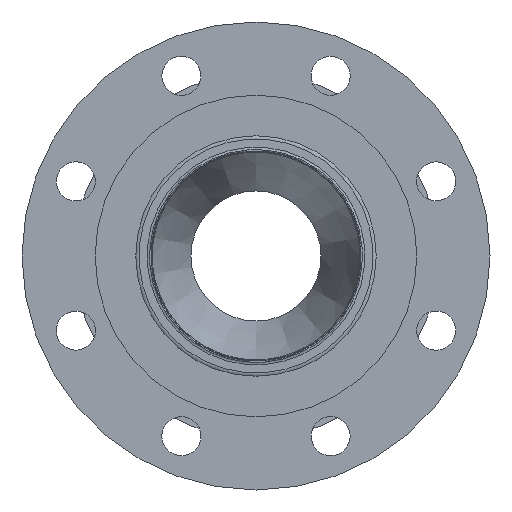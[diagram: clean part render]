
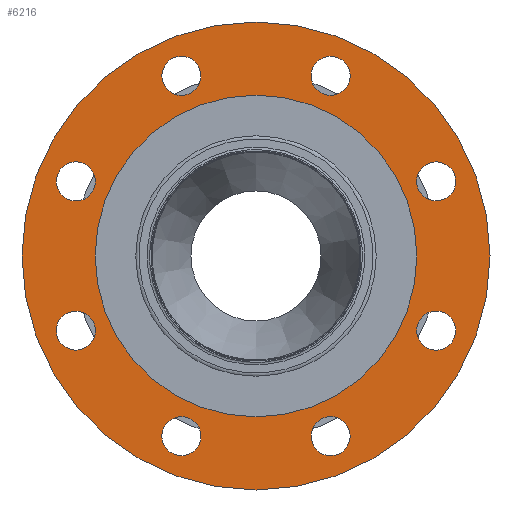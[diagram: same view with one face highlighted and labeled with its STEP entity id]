
A CAD part, front view. The second image highlights one B-rep face of the part: STEP entity #6216.
In plain terms, the highlighted planar face has unit normal (0, -1, 0) as drawn and (0, 1, 0) by its records, which use the part's own axes.
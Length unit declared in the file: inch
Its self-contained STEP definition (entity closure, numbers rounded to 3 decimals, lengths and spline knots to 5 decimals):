
#5877=CARTESIAN_POINT('',(-1.1699,0.5625,3.72971));
#5878=VERTEX_POINT('',#5877);
#5879=CARTESIAN_POINT('',(-1.43506,0.5625,3.46455));
#5880=DIRECTION('',(0.0,-1.0,0.0));
#5881=DIRECTION('',(0.707,0.0,0.707));
#5882=AXIS2_PLACEMENT_3D('',#5879,#5880,#5881);
#5883=CIRCLE('',#5882,0.375);
#5884=EDGE_CURVE('',#5878,#5878,#5883,.T.);
#5905=CARTESIAN_POINT('',(-3.46455,0.5625,1.81006));
#5906=VERTEX_POINT('',#5905);
#5907=CARTESIAN_POINT('',(-3.46455,0.5625,1.43506));
#5908=DIRECTION('',(0.0,-1.0,0.0));
#5909=DIRECTION('',(0.0,0.0,1.0));
#5910=AXIS2_PLACEMENT_3D('',#5907,#5908,#5909);
#5911=CIRCLE('',#5910,0.375);
#5912=EDGE_CURVE('',#5906,#5906,#5911,.T.);
#5933=CARTESIAN_POINT('',(-3.72971,0.5625,-1.1699));
#5934=VERTEX_POINT('',#5933);
#5935=CARTESIAN_POINT('',(-3.46455,0.5625,-1.43506));
#5936=DIRECTION('',(0.0,-1.0,0.0));
#5937=DIRECTION('',(-0.707,0.0,0.707));
#5938=AXIS2_PLACEMENT_3D('',#5935,#5936,#5937);
#5939=CIRCLE('',#5938,0.375);
#5940=EDGE_CURVE('',#5934,#5934,#5939,.T.);
#5961=CARTESIAN_POINT('',(-1.81006,0.5625,-3.46455));
#5962=VERTEX_POINT('',#5961);
#5963=CARTESIAN_POINT('',(-1.43506,0.5625,-3.46455));
#5964=DIRECTION('',(0.0,-1.0,0.0));
#5965=DIRECTION('',(-1.0,0.0,0.0));
#5966=AXIS2_PLACEMENT_3D('',#5963,#5964,#5965);
#5967=CIRCLE('',#5966,0.375);
#5968=EDGE_CURVE('',#5962,#5962,#5967,.T.);
#5989=CARTESIAN_POINT('',(1.1699,0.5625,-3.72971));
#5990=VERTEX_POINT('',#5989);
#5991=CARTESIAN_POINT('',(1.43506,0.5625,-3.46455));
#5992=DIRECTION('',(0.0,-1.0,0.0));
#5993=DIRECTION('',(-0.707,0.0,-0.707));
#5994=AXIS2_PLACEMENT_3D('',#5991,#5992,#5993);
#5995=CIRCLE('',#5994,0.375);
#5996=EDGE_CURVE('',#5990,#5990,#5995,.T.);
#6017=CARTESIAN_POINT('',(3.46455,0.5625,-1.81006));
#6018=VERTEX_POINT('',#6017);
#6019=CARTESIAN_POINT('',(3.46455,0.5625,-1.43506));
#6020=DIRECTION('',(0.0,-1.0,0.0));
#6021=DIRECTION('',(0.0,0.0,-1.0));
#6022=AXIS2_PLACEMENT_3D('',#6019,#6020,#6021);
#6023=CIRCLE('',#6022,0.375);
#6024=EDGE_CURVE('',#6018,#6018,#6023,.T.);
#6045=CARTESIAN_POINT('',(3.72971,0.5625,1.1699));
#6046=VERTEX_POINT('',#6045);
#6047=CARTESIAN_POINT('',(3.46455,0.5625,1.43506));
#6048=DIRECTION('',(0.0,-1.0,0.0));
#6049=DIRECTION('',(0.707,0.0,-0.707));
#6050=AXIS2_PLACEMENT_3D('',#6047,#6048,#6049);
#6051=CIRCLE('',#6050,0.375);
#6052=EDGE_CURVE('',#6046,#6046,#6051,.T.);
#6073=CARTESIAN_POINT('',(1.81006,0.5625,3.46455));
#6074=VERTEX_POINT('',#6073);
#6075=CARTESIAN_POINT('',(1.43506,0.5625,3.46455));
#6076=DIRECTION('',(0.0,-1.0,0.0));
#6077=DIRECTION('',(1.0,0.0,0.0));
#6078=AXIS2_PLACEMENT_3D('',#6075,#6076,#6077);
#6079=CIRCLE('',#6078,0.375);
#6080=EDGE_CURVE('',#6074,#6074,#6079,.T.);
#6101=CARTESIAN_POINT('',(3.09375,0.5625,0.));
#6102=VERTEX_POINT('',#6101);
#6103=CARTESIAN_POINT('',(0.0,0.5625,0.0));
#6104=DIRECTION('',(0.0,-1.0,0.0));
#6105=DIRECTION('',(-1.0,0.0,0.0));
#6106=AXIS2_PLACEMENT_3D('',#6103,#6104,#6105);
#6107=CIRCLE('',#6106,3.09375);
#6108=EDGE_CURVE('',#6102,#6102,#6107,.T.);
#6158=CARTESIAN_POINT('',(-4.5,0.5625,0.));
#6159=VERTEX_POINT('',#6158);
#6160=CARTESIAN_POINT('',(0.0,0.5625,0.0));
#6161=DIRECTION('',(0.0,-1.0,0.0));
#6162=DIRECTION('',(1.0,0.0,0.0));
#6163=AXIS2_PLACEMENT_3D('',#6160,#6161,#6162);
#6164=CIRCLE('',#6163,4.5);
#6165=EDGE_CURVE('',#6159,#6159,#6164,.T.);
#6181=CARTESIAN_POINT('',(0.0,0.5625,0.0));
#6182=DIRECTION('',(0.0,-1.0,0.0));
#6183=DIRECTION('',(0.0,0.0,-1.0));
#6184=AXIS2_PLACEMENT_3D('',#6181,#6182,#6183);
#6185=PLANE('',#6184);
#6186=ORIENTED_EDGE('',*,*,#6165,.F.);
#6187=EDGE_LOOP('',(#6186));
#6188=FACE_OUTER_BOUND('',#6187,.T.);
#6189=ORIENTED_EDGE('',*,*,#5884,.T.);
#6190=EDGE_LOOP('',(#6189));
#6191=FACE_BOUND('',#6190,.T.);
#6192=ORIENTED_EDGE('',*,*,#5912,.T.);
#6193=EDGE_LOOP('',(#6192));
#6194=FACE_BOUND('',#6193,.T.);
#6195=ORIENTED_EDGE('',*,*,#5940,.T.);
#6196=EDGE_LOOP('',(#6195));
#6197=FACE_BOUND('',#6196,.T.);
#6198=ORIENTED_EDGE('',*,*,#5968,.T.);
#6199=EDGE_LOOP('',(#6198));
#6200=FACE_BOUND('',#6199,.T.);
#6201=ORIENTED_EDGE('',*,*,#5996,.T.);
#6202=EDGE_LOOP('',(#6201));
#6203=FACE_BOUND('',#6202,.T.);
#6204=ORIENTED_EDGE('',*,*,#6024,.T.);
#6205=EDGE_LOOP('',(#6204));
#6206=FACE_BOUND('',#6205,.T.);
#6207=ORIENTED_EDGE('',*,*,#6052,.T.);
#6208=EDGE_LOOP('',(#6207));
#6209=FACE_BOUND('',#6208,.T.);
#6210=ORIENTED_EDGE('',*,*,#6080,.T.);
#6211=EDGE_LOOP('',(#6210));
#6212=FACE_BOUND('',#6211,.T.);
#6213=ORIENTED_EDGE('',*,*,#6108,.T.);
#6214=EDGE_LOOP('',(#6213));
#6215=FACE_BOUND('',#6214,.T.);
#6216=ADVANCED_FACE('',(#6188,#6191,#6194,#6197,#6200,#6203,#6206,#6209,#6212,#6215),#6185,.F.);
